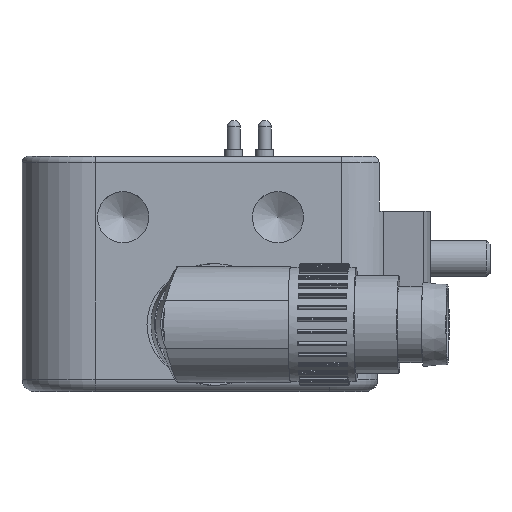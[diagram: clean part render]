
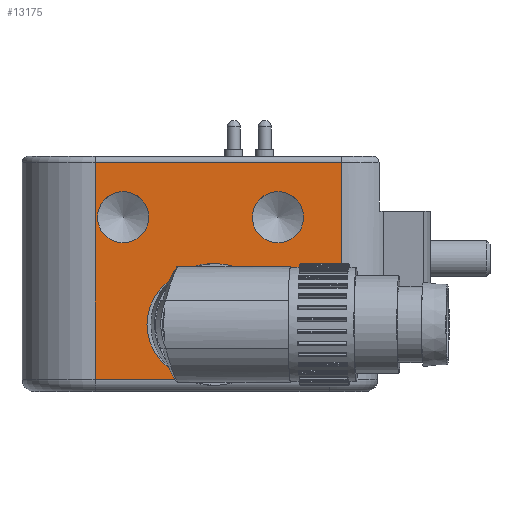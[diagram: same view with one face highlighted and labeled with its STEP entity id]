
A CAD part, left-side view. The second image highlights one B-rep face of the part: STEP entity #13175.
In plain terms, the highlighted planar face has unit normal (-1, 0, 0).
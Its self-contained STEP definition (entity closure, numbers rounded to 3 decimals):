
#304=FACE_BOUND('',#1918,.T.);
#305=FACE_BOUND('',#1919,.T.);
#306=FACE_BOUND('',#1920,.T.);
#551=PLANE('',#14325);
#1085=FACE_OUTER_BOUND('',#1917,.T.);
#1917=EDGE_LOOP('',(#9720,#9721,#9722,#9723,#9724,#9725));
#1918=EDGE_LOOP('',(#9726,#9727));
#1919=EDGE_LOOP('',(#9728,#9729));
#1920=EDGE_LOOP('',(#9730,#9731));
#2759=LINE('',#21198,#3672);
#2768=LINE('',#21234,#3681);
#2783=LINE('',#21342,#3696);
#2819=LINE('',#21477,#3732);
#2820=LINE('',#21480,#3733);
#2821=LINE('',#21481,#3734);
#3672=VECTOR('',#16761,10.);
#3681=VECTOR('',#16804,10.);
#3696=VECTOR('',#16885,10.);
#3732=VECTOR('',#17019,10.);
#3733=VECTOR('',#17024,10.);
#3734=VECTOR('',#17025,10.);
#4612=CIRCLE('',#14326,4.4);
#4613=CIRCLE('',#14327,4.4);
#4614=CIRCLE('',#14328,2.1);
#4615=CIRCLE('',#14329,2.1);
#4616=CIRCLE('',#14330,2.1);
#4617=CIRCLE('',#14331,2.1);
#5519=VERTEX_POINT('',#21088);
#5539=VERTEX_POINT('',#21196);
#5549=VERTEX_POINT('',#21232);
#5579=VERTEX_POINT('',#21335);
#5581=VERTEX_POINT('',#21340);
#5631=VERTEX_POINT('',#21476);
#5632=VERTEX_POINT('',#21482);
#5633=VERTEX_POINT('',#21483);
#5634=VERTEX_POINT('',#21486);
#5635=VERTEX_POINT('',#21487);
#5636=VERTEX_POINT('',#21490);
#5637=VERTEX_POINT('',#21491);
#7015=EDGE_CURVE('',#5539,#5519,#2759,.T.);
#7033=EDGE_CURVE('',#5549,#5539,#2768,.T.);
#7071=EDGE_CURVE('',#5581,#5579,#2783,.T.);
#7139=EDGE_CURVE('',#5579,#5631,#2819,.T.);
#7141=EDGE_CURVE('',#5519,#5581,#2820,.T.);
#7142=EDGE_CURVE('',#5549,#5631,#2821,.T.);
#7143=EDGE_CURVE('',#5632,#5633,#4612,.T.);
#7144=EDGE_CURVE('',#5633,#5632,#4613,.T.);
#7145=EDGE_CURVE('',#5634,#5635,#4614,.T.);
#7146=EDGE_CURVE('',#5635,#5634,#4615,.T.);
#7147=EDGE_CURVE('',#5636,#5637,#4616,.T.);
#7148=EDGE_CURVE('',#5637,#5636,#4617,.T.);
#9720=ORIENTED_EDGE('',*,*,#7141,.F.);
#9721=ORIENTED_EDGE('',*,*,#7015,.F.);
#9722=ORIENTED_EDGE('',*,*,#7033,.F.);
#9723=ORIENTED_EDGE('',*,*,#7142,.T.);
#9724=ORIENTED_EDGE('',*,*,#7139,.F.);
#9725=ORIENTED_EDGE('',*,*,#7071,.F.);
#9726=ORIENTED_EDGE('',*,*,#7143,.F.);
#9727=ORIENTED_EDGE('',*,*,#7144,.F.);
#9728=ORIENTED_EDGE('',*,*,#7145,.T.);
#9729=ORIENTED_EDGE('',*,*,#7146,.T.);
#9730=ORIENTED_EDGE('',*,*,#7147,.T.);
#9731=ORIENTED_EDGE('',*,*,#7148,.T.);
#13175=ADVANCED_FACE('',(#1085,#304,#305,#306),#551,.T.);
#14325=AXIS2_PLACEMENT_3D('',#21479,#17022,#17023);
#14326=AXIS2_PLACEMENT_3D('',#21484,#17026,#17027);
#14327=AXIS2_PLACEMENT_3D('',#21485,#17028,#17029);
#14328=AXIS2_PLACEMENT_3D('',#21488,#17030,#17031);
#14329=AXIS2_PLACEMENT_3D('',#21489,#17032,#17033);
#14330=AXIS2_PLACEMENT_3D('',#21492,#17034,#17035);
#14331=AXIS2_PLACEMENT_3D('',#21493,#17036,#17037);
#16761=DIRECTION('',(0.,1.,0.));
#16804=DIRECTION('',(0.,0.,-1.));
#16885=DIRECTION('',(0.,-1.,0.));
#17019=DIRECTION('',(0.,0.,-1.));
#17022=DIRECTION('center_axis',(-1.,0.,0.));
#17023=DIRECTION('ref_axis',(0.,0.,
1.));
#17024=DIRECTION('',(0.,0.,1.));
#17025=DIRECTION('',(0.,-1.,0.));
#17026=DIRECTION('center_axis',(-1.,0.,0.));
#17027=DIRECTION('ref_axis',(0.,0.,
-1.));
#17028=DIRECTION('center_axis',(-1.,0.,0.));
#17029=DIRECTION('ref_axis',(0.,0.,
-1.));
#17030=DIRECTION('center_axis',(1.,0.,0.));
#17031=DIRECTION('ref_axis',(0.,0.,
1.));
#17032=DIRECTION('center_axis',(1.,0.,0.));
#17033=DIRECTION('ref_axis',(0.,0.,
1.));
#17034=DIRECTION('center_axis',(1.,0.,0.));
#17035=DIRECTION('ref_axis',(0.,0.,
1.));
#17036=DIRECTION('center_axis',(1.,0.,0.));
#17037=DIRECTION('ref_axis',(0.,0.,
1.));
#21088=CARTESIAN_POINT('',(-26.,8.65,-4.5));
#21196=CARTESIAN_POINT('',(-26.,-10.55,-4.5));
#21198=CARTESIAN_POINT('',(-26.,-7.25,-4.5));
#21232=CARTESIAN_POINT('',(-26.,-10.55,0.));
#21234=CARTESIAN_POINT('',(-26.,-10.55,-5.5));
#21335=CARTESIAN_POINT('',(-26.,-11.541,13.3));
#21340=CARTESIAN_POINT('',(-26.,8.65,13.3));
#21342=CARTESIAN_POINT('',(-26.,-10.475,13.3));
#21476=CARTESIAN_POINT('',(-26.,-11.541,0.));
#21477=CARTESIAN_POINT('',(-26.,-11.541,0.));
#21479=CARTESIAN_POINT('Origin',(-26.,-18.85,0.));
#21480=CARTESIAN_POINT('',(-26.,8.65,-5.5));
#21481=CARTESIAN_POINT('',(-26.,14.65,0.));
#21482=CARTESIAN_POINT('',(-26.,4.4,0.));
#21483=CARTESIAN_POINT('',(-26.,0.,4.4));
#21484=CARTESIAN_POINT('Origin',(-26.,0.,
0.));
#21485=CARTESIAN_POINT('Origin',(-26.,0.,
0.));
#21486=CARTESIAN_POINT('',(-26.,-6.35,10.9));
#21487=CARTESIAN_POINT('',(-26.,-6.35,6.7));
#21488=CARTESIAN_POINT('Origin',(-26.,-6.35,8.8));
#21489=CARTESIAN_POINT('Origin',(-26.,-6.35,8.8));
#21490=CARTESIAN_POINT('',(-26.,6.35,10.9));
#21491=CARTESIAN_POINT('',(-26.,6.35,6.7));
#21492=CARTESIAN_POINT('Origin',(-26.,6.35,8.8));
#21493=CARTESIAN_POINT('Origin',(-26.,6.35,8.8));
